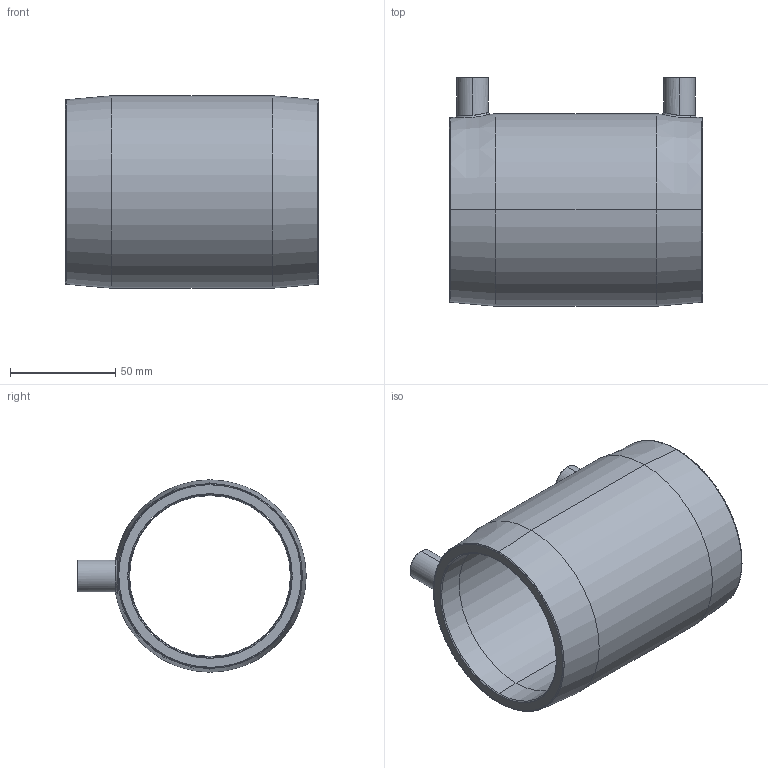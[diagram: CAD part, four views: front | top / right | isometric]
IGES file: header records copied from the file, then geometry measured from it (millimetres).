
Start section: SolidWorks IGES file using analytic representation for surfaces
Global section: file name: G:\Group\Marketing\Public\CAD Offering - Website\1. coupler\CBKHA75.IGS; native system: SolidWorks 2017; preprocessor: SolidWorks 2017; author: hwegrzynska; date: 180919.150600; units: millimetre
Bounding box: 120 x 108.37 x 91.3 mm (x, y, z)
Surface area: 68721.3 mm2 (no closed solid volume)
Topology: 0 solids, 0 shells, 70 faces, 1084 edges, 1084 vertices
Faces by surface type: revolution 44, bspline 26
